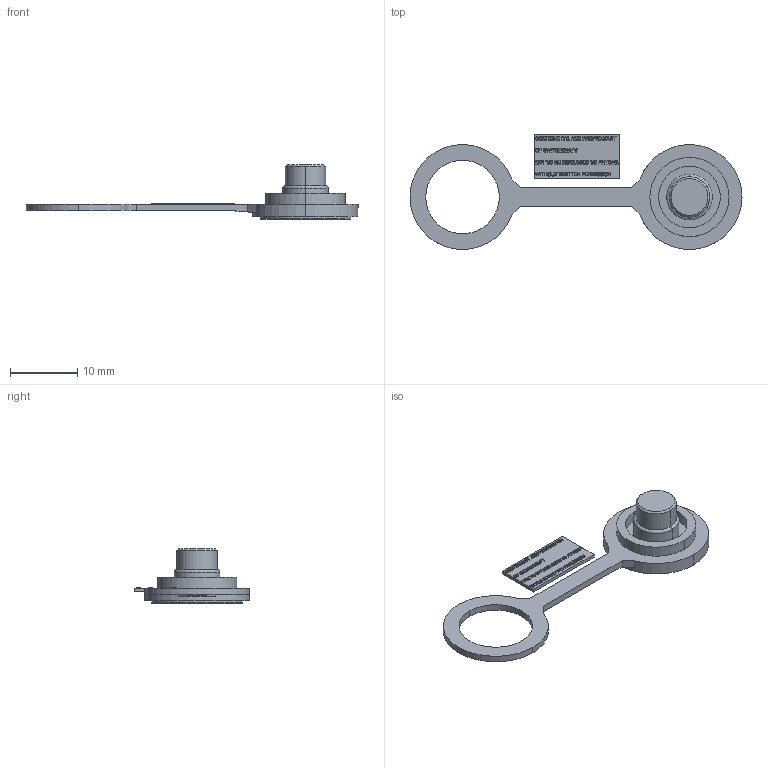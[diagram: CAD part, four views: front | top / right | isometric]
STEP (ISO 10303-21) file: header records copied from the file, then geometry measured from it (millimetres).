
FILE_DESCRIPTION (( 'STEP AP214' ), '1' );
FILE_NAME ('JCAP.STEP', '2009-11-04T15:40:59', ( ' ' ), ( ' ' ), 'SwSTEP 2.0', 'SolidWorks 2008', '' );
FILE_SCHEMA (( 'AUTOMOTIVE_DESIGN' ));
Length unit declared in the file: inch
Products named in the file (1): JCAP
Bounding box: 49.53 x 17.18 x 8.2 mm (x, y, z)
Volume: 841 mm3; surface area: 1375.1 mm2
Topology: 2 solids, 2 shells, 1281 faces, 3409 edges, 2270 vertices
Faces by surface type: plane 877, bspline 370, cylinder 26, torus 6, cone 2
Entity records: 60388 total; most frequent: CARTESIAN_POINT 30894, ORIENTED_EDGE 6818, DIRECTION 4559, EDGE_CURVE 3409, VECTOR 2601, LINE 2601, VERTEX_POINT 2270, EDGE_LOOP 1421
